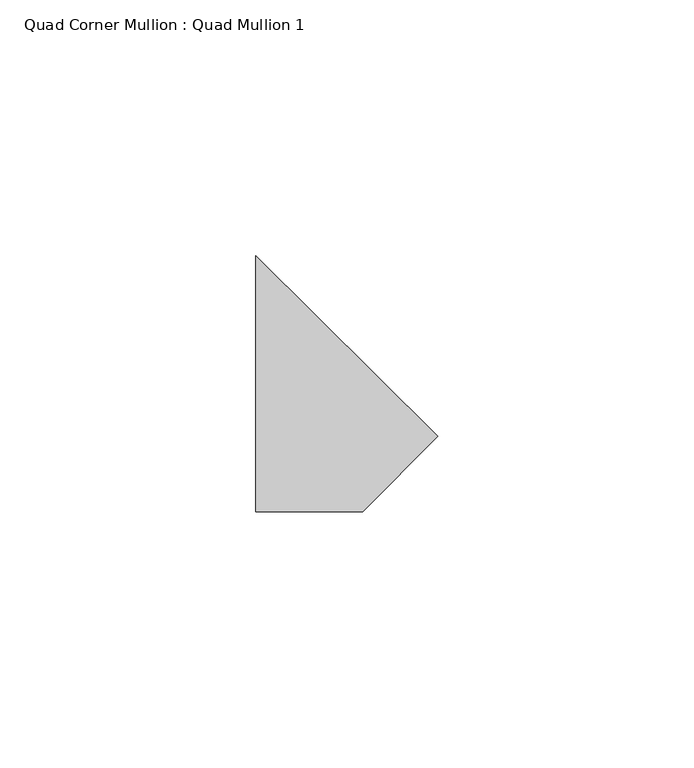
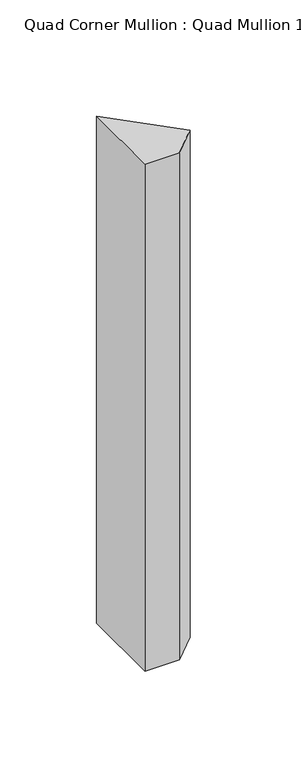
"""IFC4 building model written with IfcOpenShell, lengths in millimetres: member geometry, Quad Corner Mullion : Quad Mullion 1."""

from ifc_helpers import new_model, si_unit, frame, origin, place, context, project, spatial, polyline, outline, extrude, source, transform, mapped, element, save


def quad_corner_mullion_quad_mullion_1_9c1cce79(model_context):
    return source(origin(), model_context, "Body", "SweptSolid", [
        extrude(outline(polyline([(25.0929703, -10.1955497), (10.4214391, -25.0), (-10.4214391, -25.0), (-10.4214391, 25.0), (25.0929703, -10.1955497)])), frame((0.0, 0.0, -320.0), z_axis=(0.0, 0.0, 1.0), x_axis=(1.0, 0.0, 0.0)), (0.0, 0.0, 1.0), 320.0),
    ])


if __name__ == "__main__":
    model = new_model("IFC4")
    model_context = context("Model", 3, world=origin())
    ifc_project = project(units=[si_unit("LENGTHUNIT", "METRE", prefix="MILLI")], contexts=[model_context])
    site = spatial("IfcSite", under=ifc_project)
    building = spatial("IfcBuilding", under=site)
    placement = place(None, origin())
    quad_corner_mullion_quad_mullion_1_shape = quad_corner_mullion_quad_mullion_1_9c1cce79(model_context)
    element("IfcMember", 1, ObjectType="Quad Corner Mullion : Quad Mullion 1", at=placement, inside=building, context=model_context, shape_type="MappedRepresentation", body=[
        mapped(quad_corner_mullion_quad_mullion_1_shape, transform((0.0, 0.0, 0.0), x_axis=(1.0, 0.0, 0.0), y_axis=(0.0, 1.0, 0.0), z_axis=(0.0, 0.0, 1.0))),
    ])
    save(model, "model.ifc")
